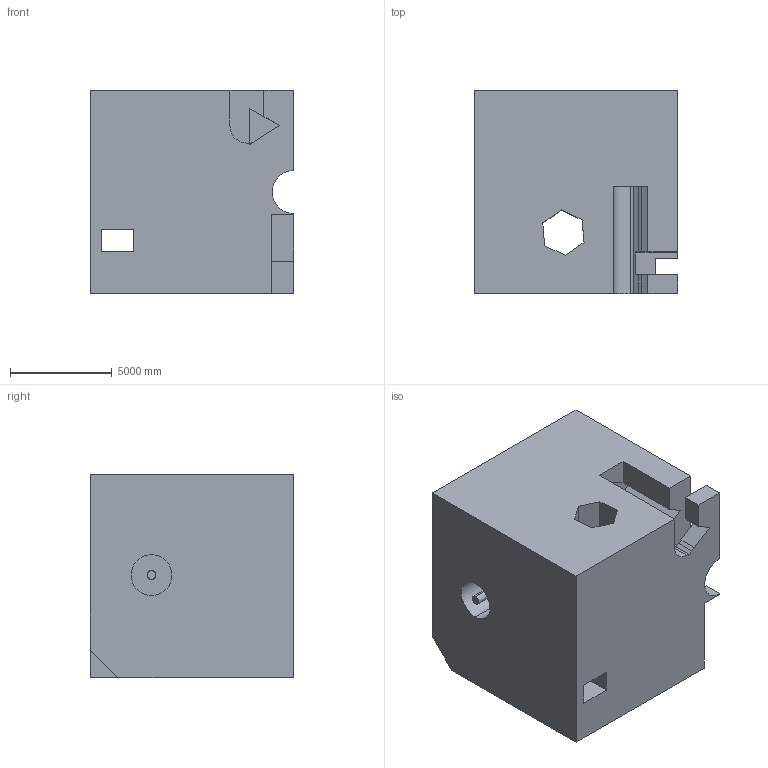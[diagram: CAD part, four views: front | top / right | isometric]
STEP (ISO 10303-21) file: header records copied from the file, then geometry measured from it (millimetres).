
FILE_DESCRIPTION (( 'STEP AP203' ), '1' );
FILE_NAME ('812.STEP', '2022-07-29T13:23:47', ( 'user' ), ( '' ), 'SwSTEP 2.0', 'SolidWorks 2021', '' );
FILE_SCHEMA (( 'CONFIG_CONTROL_DESIGN' ));
Length unit declared in the file: centimetre
Products named in the file (1): 812
Bounding box: 10000 x 10000 x 10000 mm (x, y, z)
Volume: 874073561498.6 mm3; surface area: 791704810.4 mm2
Topology: 1 solids, 1 shells, 52 faces, 144 edges, 96 vertices
Faces by surface type: plane 42, cylinder 10
Entity records: 1733 total; most frequent: CARTESIAN_POINT 293, ORIENTED_EDGE 288, DIRECTION 270, EDGE_CURVE 144, VECTOR 124, LINE 124, VERTEX_POINT 96, AXIS2_PLACEMENT_3D 73
